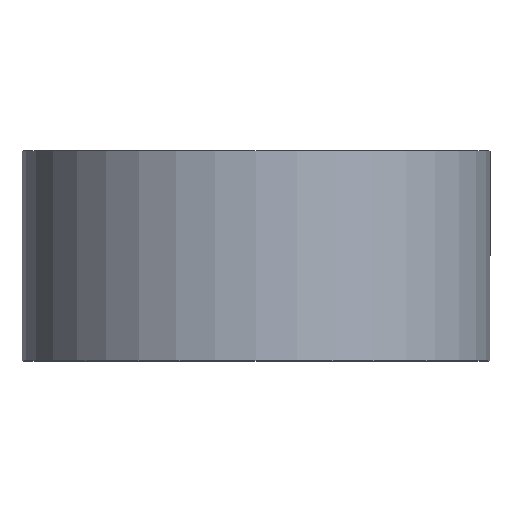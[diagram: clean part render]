
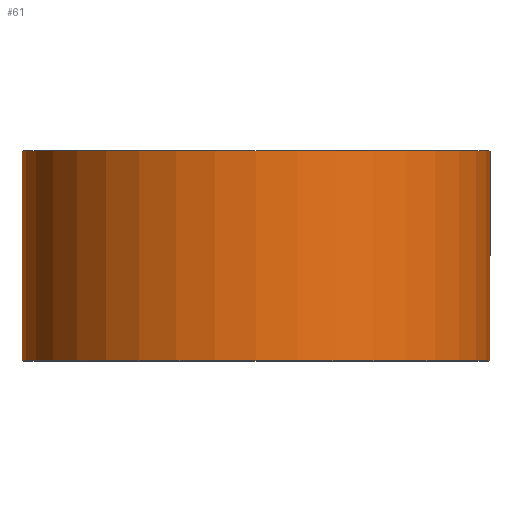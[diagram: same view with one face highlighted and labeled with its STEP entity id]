
A CAD part, top view. The second image highlights one B-rep face of the part: STEP entity #61.
In plain terms, the highlighted cylindrical face has radius 39 mm (diameter 78 mm), a partial arc.
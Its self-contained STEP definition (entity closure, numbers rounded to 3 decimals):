
#1 = VERTEX_POINT ( 'NONE', #194 ) ;
#5 = LINE ( 'NONE', #223, #270 ) ;
#14 = ORIENTED_EDGE ( 'NONE', *, *, #132, .T. ) ;
#20 = DIRECTION ( 'NONE',  ( -1., 0., 0. ) ) ;
#24 = DIRECTION ( 'NONE',  ( 0., 1., 0. ) ) ;
#39 = EDGE_CURVE ( 'NONE', #267, #140, #136, .T. ) ;
#47 = AXIS2_PLACEMENT_3D ( 'NONE', #95, #98, #174 ) ;
#59 = FACE_OUTER_BOUND ( 'NONE', #271, .T. ) ;
#61 = ADVANCED_FACE ( 'NONE', ( #59 ), #179, .T. ) ;
#69 = DIRECTION ( 'NONE',  ( 0., 1., 0. ) ) ;
#70 = EDGE_CURVE ( 'NONE', #1, #267, #5, .T. ) ;
#80 = CIRCLE ( 'NONE', #165, 39. ) ;
#95 = CARTESIAN_POINT ( 'NONE',  ( 0., 35., 0. ) ) ;
#98 = DIRECTION ( 'NONE',  ( 0., 1., 0. ) ) ;
#99 = EDGE_CURVE ( 'NONE', #1, #265, #80, .T. ) ;
#114 = ORIENTED_EDGE ( 'NONE', *, *, #39, .F. ) ;
#120 = DIRECTION ( 'NONE',  ( 0., 1., 0. ) ) ;
#132 = EDGE_CURVE ( 'NONE', #265, #140, #233, .T. ) ;
#136 = CIRCLE ( 'NONE', #47, 39. ) ;
#140 = VERTEX_POINT ( 'NONE', #167 ) ;
#146 = CARTESIAN_POINT ( 'NONE',  ( 0., 0., 0. ) ) ;
#149 = ORIENTED_EDGE ( 'NONE', *, *, #99, .T. ) ;
#154 = ORIENTED_EDGE ( 'NONE', *, *, #70, .F. ) ;
#165 = AXIS2_PLACEMENT_3D ( 'NONE', #146, #69, #171 ) ;
#167 = CARTESIAN_POINT ( 'NONE',  ( 39., 35., 0. ) ) ;
#170 = VECTOR ( 'NONE', #120, 1000. ) ;
#171 = DIRECTION ( 'NONE',  ( -1., 0., 0. ) ) ;
#172 = CARTESIAN_POINT ( 'NONE',  ( 0., 0., 0. ) ) ;
#174 = DIRECTION ( 'NONE',  ( -1., 0., 0. ) ) ;
#179 = CYLINDRICAL_SURFACE ( 'NONE', #248, 39. ) ;
#194 = CARTESIAN_POINT ( 'NONE',  ( -39., 0., 0. ) ) ;
#205 = CARTESIAN_POINT ( 'NONE',  ( 39., 0., 0. ) ) ;
#223 = CARTESIAN_POINT ( 'NONE',  ( -39., 0., 0. ) ) ;
#231 = CARTESIAN_POINT ( 'NONE',  ( -39., 35., 0. ) ) ;
#233 = LINE ( 'NONE', #274, #170 ) ;
#248 = AXIS2_PLACEMENT_3D ( 'NONE', #172, #24, #20 ) ;
#265 = VERTEX_POINT ( 'NONE', #205 ) ;
#267 = VERTEX_POINT ( 'NONE', #231 ) ;
#270 = VECTOR ( 'NONE', #281, 1000. ) ;
#271 = EDGE_LOOP ( 'NONE', ( #149, #14, #114, #154 ) ) ;
#274 = CARTESIAN_POINT ( 'NONE',  ( 39., 0., 0. ) ) ;
#281 = DIRECTION ( 'NONE',  ( 0., 1., 0. ) ) ;
